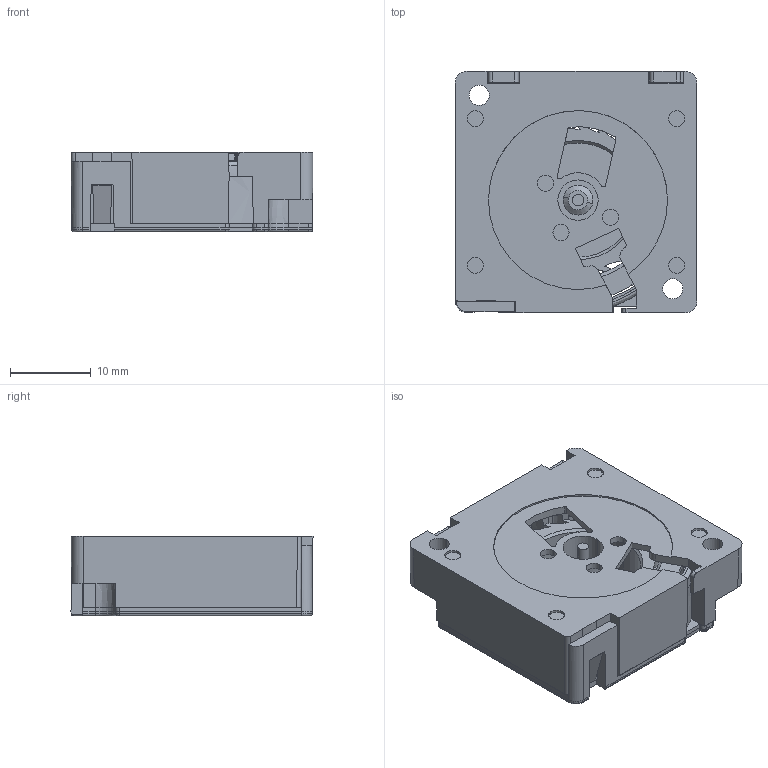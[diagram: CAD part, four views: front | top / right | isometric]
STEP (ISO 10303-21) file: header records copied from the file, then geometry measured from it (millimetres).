
FILE_DESCRIPTION((''),'2;1');
FILE_NAME('0938E744018C6E30E45D7B2AF392C7C_ASM','2024-06-28T16:59:28',('pc'),(''),'CREO PARAMETRIC BY PTC INC, 2018050','CREO PARAMETRIC BY PTC INC, 2018050','');
FILE_SCHEMA(('CONFIG_CONTROL_DESIGN','GEOMETRIC_VALIDATION_PROPERTIES_MIM'));
Length unit declared in the file: millimetre
Products named in the file (7): 1113-1; 1113-3; 1113-5; DEL; 3010_STP_ASM; ADMI81B2SM8D_2; 0938E744018C6E30E45D7B2AF392C7C_ASM
Assembly tree (6 placements, depth 3):
  0938E744018C6E30E45D7B2AF392C7C_ASM
    3010_STP_ASM
      1113-1
      1113-3
      1113-5
      DEL
    ADMI81B2SM8D_2
Bounding box: 30 x 30.02 x 9.92 mm (x, y, z)
Volume: 2957.9 mm3; surface area: 7793.7 mm2
Topology: 3 solids, 3 shells, 671 faces, 2062 edges, 1378 vertices
Faces by surface type: plane 358, cylinder 124, cone 122, bspline 40, extrusion 16, torus 11
Entity records: 29453 total; most frequent: CARTESIAN_POINT 7688, ORIENTED_EDGE 4124, DIRECTION 3475, EDGE_CURVE 2062, VERTEX_POINT 1378, AXIS2_PLACEMENT_3D 1316, PRESENTATION_STYLE_ASSIGNMENT 1105, STYLED_ITEM 1105
